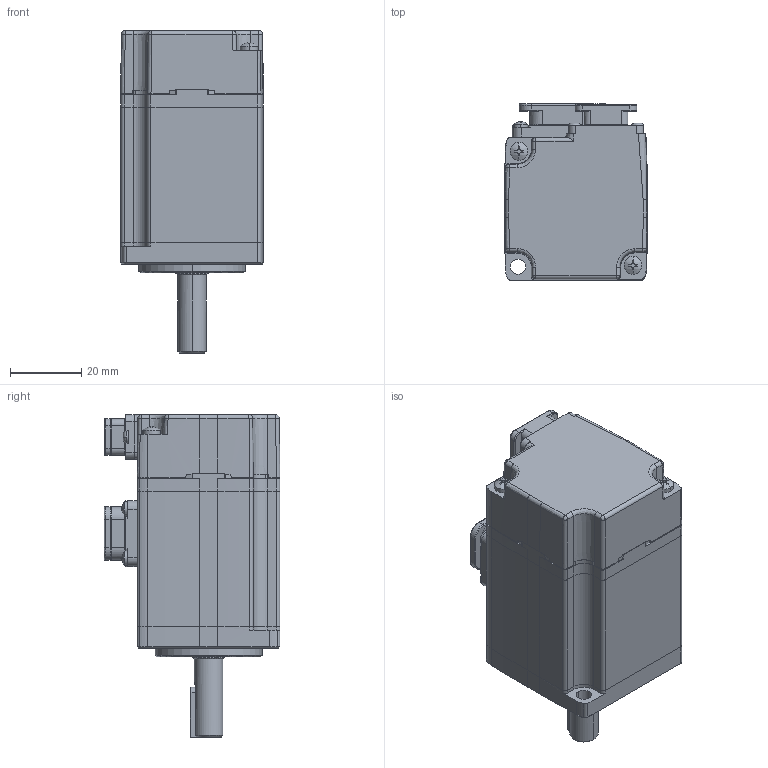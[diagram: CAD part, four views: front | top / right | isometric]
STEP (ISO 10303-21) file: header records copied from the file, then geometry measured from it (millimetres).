
FILE_DESCRIPTION (( 'STEP AP214' ), '1' );
FILE_NAME ('UMM-0000BA-B5.STEP', '2024-08-20T09:35:46', ( '' ), ( '' ), 'SwSTEP 2.0', 'SolidWorks 2022', '' );
FILE_SCHEMA (( 'AUTOMOTIVE_DESIGN' ));
Length unit declared in the file: millimetre
Products named in the file (1): UMM-0000BA-B5
Bounding box: 40 x 49.3 x 90.4 mm (x, y, z)
Volume: 103965 mm3; surface area: 38717.3 mm2
Topology: 15 solids, 25 shells, 2374 faces, 6389 edges, 4094 vertices
Faces by surface type: plane 1296, cylinder 697, cone 199, bspline 178, torus 4
Entity records: 99361 total; most frequent: CARTESIAN_POINT 36442, ORIENTED_EDGE 12680, DIRECTION 10530, EDGE_CURVE 6340, VERTEX_POINT 4093, VECTOR 3732, LINE 3732, AXIS2_PLACEMENT_3D 3399
